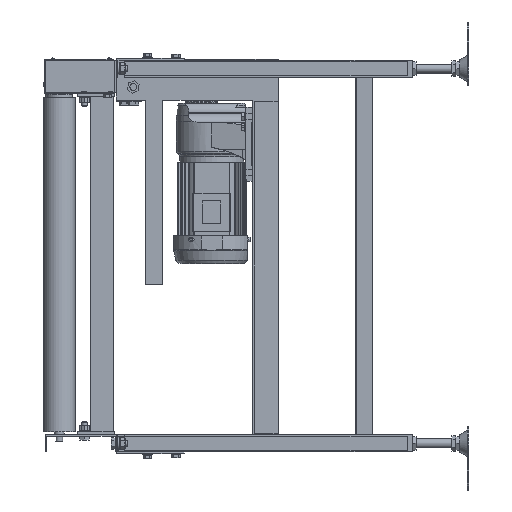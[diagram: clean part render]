
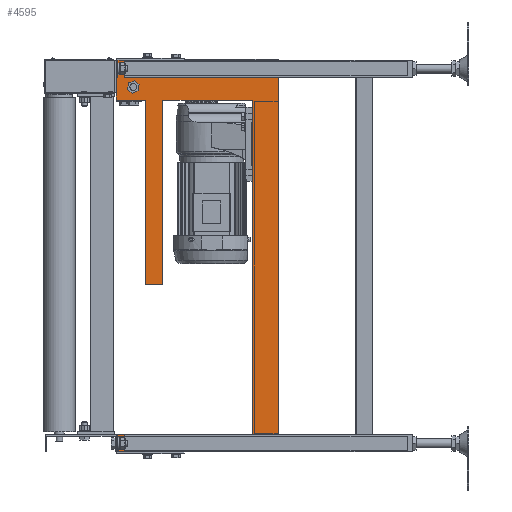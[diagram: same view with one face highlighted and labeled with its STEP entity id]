
A CAD part, left-side view. The second image highlights one B-rep face of the part: STEP entity #4595.
In plain terms, the highlighted planar face has unit normal (-1, 0, 0).
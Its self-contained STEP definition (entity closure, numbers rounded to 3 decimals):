
#4595=ADVANCED_FACE('',(#8654,#8655),#8653,.T.);
#8653=PLANE('',#45705);
#8654=FACE_OUTER_BOUND('',#45706,.T.);
#8655=FACE_BOUND('',#45707,.T.);
#45702=CARTESIAN_POINT('',(2400.,-424.,356.6));
#45703=DIRECTION('',(-1.,0.,0.));
#45704=DIRECTION('',(0.,1.,0.));
#45705=AXIS2_PLACEMENT_3D('',#45702,#45703,#45704);
#45706=EDGE_LOOP('',(#65526,#65527,#65528,#65529,#65530,#65531,#65532,#65533,#65534,#65535,#65536,#65537,#65538,#65539));
#45707=EDGE_LOOP('',(#65540,#65541,#65542,#65543,#65544,#65545));
#65526=ORIENTED_EDGE('',*,*,#83967,.T.);
#65527=ORIENTED_EDGE('',*,*,#83968,.T.);
#65528=ORIENTED_EDGE('',*,*,#83969,.F.);
#65529=ORIENTED_EDGE('',*,*,#83970,.T.);
#65530=ORIENTED_EDGE('',*,*,#83971,.F.);
#65531=ORIENTED_EDGE('',*,*,#83972,.F.);
#65532=ORIENTED_EDGE('',*,*,#83973,.T.);
#65533=ORIENTED_EDGE('',*,*,#83974,.T.);
#65534=ORIENTED_EDGE('',*,*,#83975,.T.);
#65535=ORIENTED_EDGE('',*,*,#83976,.F.);
#65536=ORIENTED_EDGE('',*,*,#83977,.T.);
#65537=ORIENTED_EDGE('',*,*,#83978,.T.);
#65538=ORIENTED_EDGE('',*,*,#83966,.T.);
#65539=ORIENTED_EDGE('',*,*,#83979,.F.);
#65540=ORIENTED_EDGE('',*,*,#83980,.F.);
#65541=ORIENTED_EDGE('',*,*,#83981,.F.);
#65542=ORIENTED_EDGE('',*,*,#83982,.F.);
#65543=ORIENTED_EDGE('',*,*,#83983,.F.);
#65544=ORIENTED_EDGE('',*,*,#83984,.F.);
#65545=ORIENTED_EDGE('',*,*,#83985,.F.);
#83966=EDGE_CURVE('',#93863,#93877,#93884,.T.);
#83967=EDGE_CURVE('',#93890,#93891,#93892,.T.);
#83968=EDGE_CURVE('',#93891,#93898,#93899,.T.);
#83969=EDGE_CURVE('',#93905,#93898,#93906,.T.);
#83970=EDGE_CURVE('',#93905,#93912,#93913,.T.);
#83971=EDGE_CURVE('',#93919,#93912,#93920,.T.);
#83972=EDGE_CURVE('',#93926,#93919,#93927,.T.);
#83973=EDGE_CURVE('',#93926,#93933,#93934,.T.);
#83974=EDGE_CURVE('',#93933,#93940,#93941,.T.);
#83975=EDGE_CURVE('',#93940,#93947,#93948,.T.);
#83976=EDGE_CURVE('',#93954,#93947,#93955,.T.);
#83977=EDGE_CURVE('',#93954,#93961,#93962,.T.);
#83978=EDGE_CURVE('',#93961,#93863,#93968,.T.);
#83979=EDGE_CURVE('',#93890,#93877,#93974,.T.);
#83980=EDGE_CURVE('',#93980,#93981,#93982,.T.);
#83981=EDGE_CURVE('',#93988,#93980,#93989,.T.);
#83982=EDGE_CURVE('',#93995,#93988,#93996,.T.);
#83983=EDGE_CURVE('',#94002,#93995,#94003,.T.);
#83984=EDGE_CURVE('',#94009,#94002,#94010,.T.);
#83985=EDGE_CURVE('',#93981,#94009,#94016,.T.);
#93863=VERTEX_POINT('',#155335);
#93877=VERTEX_POINT('',#155343);
#93884=LINE('',#155347,#155348);
#93890=VERTEX_POINT('',#155350);
#93891=VERTEX_POINT('',#155351);
#93892=LINE('',#155352,#155353);
#93898=VERTEX_POINT('',#155355);
#93899=LINE('',#155356,#155357);
#93905=VERTEX_POINT('',#155359);
#93906=LINE('',#155360,#155361);
#93912=VERTEX_POINT('',#155363);
#93913=LINE('',#155364,#155365);
#93919=VERTEX_POINT('',#155367);
#93920=LINE('',#155368,#155369);
#93926=VERTEX_POINT('',#155371);
#93927=LINE('',#155372,#155373);
#93933=VERTEX_POINT('',#155375);
#93934=LINE('',#155376,#155377);
#93940=VERTEX_POINT('',#155379);
#93941=LINE('',#155380,#155381);
#93947=VERTEX_POINT('',#155383);
#93948=LINE('',#155384,#155385);
#93954=VERTEX_POINT('',#155387);
#93955=LINE('',#155388,#155389);
#93961=VERTEX_POINT('',#155391);
#93962=LINE('',#155392,#155393);
#93968=LINE('',#155395,#155396);
#93974=LINE('',#155398,#155399);
#93980=VERTEX_POINT('',#155401);
#93981=VERTEX_POINT('',#155402);
#93982=LINE('',#155403,#155404);
#93988=VERTEX_POINT('',#155406);
#93989=LINE('',#155407,#155408);
#93995=VERTEX_POINT('',#155410);
#93996=LINE('',#155411,#155412);
#94002=VERTEX_POINT('',#155414);
#94003=LINE('',#155415,#155416);
#94009=VERTEX_POINT('',#155418);
#94010=LINE('',#155419,#155420);
#94016=LINE('',#155422,#155423);
#155335=CARTESIAN_POINT('',(2400.,-181.,274.5));
#155343=CARTESIAN_POINT('',(2400.,-181.,-50.5));
#155347=CARTESIAN_POINT('',(2400.,-181.,274.5));
#155348=VECTOR('',#155349,325.);
#155349=DIRECTION('',(0.,0.,-1.));
#155350=CARTESIAN_POINT('',(2400.,-211.,-50.5));
#155351=CARTESIAN_POINT('',(2400.,-211.,274.5));
#155352=CARTESIAN_POINT('',(2400.,-211.,-50.5));
#155353=VECTOR('',#155354,325.);
#155354=DIRECTION('',(0.,0.,1.));
#155355=CARTESIAN_POINT('',(2400.,-369.,274.5));
#155356=CARTESIAN_POINT('',(2400.,-211.,274.5));
#155357=VECTOR('',#155358,158.);
#155358=DIRECTION('',(0.,-1.,0.));
#155359=CARTESIAN_POINT('',(2400.,-369.,-315.));
#155360=CARTESIAN_POINT('',(2400.,-369.,-315.));
#155361=VECTOR('',#155362,589.5);
#155362=DIRECTION('',(0.,0.,1.));
#155363=CARTESIAN_POINT('',(2400.,-129.,-315.));
#155364=CARTESIAN_POINT('',(2400.,-369.,-315.));
#155365=VECTOR('',#155366,240.);
#155366=DIRECTION('',(0.,1.,0.));
#155367=CARTESIAN_POINT('',(2400.,-129.,-345.));
#155368=CARTESIAN_POINT('',(2400.,-129.,-345.));
#155369=VECTOR('',#155370,30.);
#155370=DIRECTION('',(0.,0.,1.));
#155371=CARTESIAN_POINT('',(2400.,-414.,-345.));
#155372=CARTESIAN_POINT('',(2400.,-414.,-345.));
#155373=VECTOR('',#155374,285.);
#155374=DIRECTION('',(0.,1.,0.));
#155375=CARTESIAN_POINT('',(2400.,-414.,331.6));
#155376=CARTESIAN_POINT('',(2400.,-414.,-345.));
#155377=VECTOR('',#155378,676.6);
#155378=DIRECTION('',(0.,0.,1.));
#155379=CARTESIAN_POINT('',(2400.,-180.,331.6));
#155380=CARTESIAN_POINT('',(2400.,-414.,331.6));
#155381=VECTOR('',#155382,234.);
#155382=DIRECTION('',(0.,1.,0.));
#155383=CARTESIAN_POINT('',(2400.,-180.,346.6));
#155384=CARTESIAN_POINT('',(2400.,-180.,331.6));
#155385=VECTOR('',#155386,15.);
#155386=DIRECTION('',(0.,0.,1.));
#155387=CARTESIAN_POINT('',(2400.,-129.,346.6));
#155388=CARTESIAN_POINT('',(2400.,-129.,346.6));
#155389=VECTOR('',#155390,51.);
#155390=DIRECTION('',(0.,-1.,0.));
#155391=CARTESIAN_POINT('',(2400.,-129.,274.5));
#155392=CARTESIAN_POINT('',(2400.,-129.,346.6));
#155393=VECTOR('',#155394,72.1);
#155394=DIRECTION('',(0.,0.,-1.));
#155395=CARTESIAN_POINT('',(2400.,-129.,274.5));
#155396=VECTOR('',#155397,52.);
#155397=DIRECTION('',(0.,-1.,0.));
#155398=CARTESIAN_POINT('',(2400.,-211.,-50.5));
#155399=VECTOR('',#155400,30.);
#155400=DIRECTION('',(0.,1.,0.));
#155401=CARTESIAN_POINT('',(2400.,-148.698,293.932));
#155402=CARTESIAN_POINT('',(2400.,-157.112,286.894));
#155403=CARTESIAN_POINT('',(2400.,-148.698,293.932));
#155404=VECTOR('',#155405,10.97);
#155405=DIRECTION('',(0.,-0.767,-0.642));
#155406=CARTESIAN_POINT('',(2400.,-150.585,304.738));
#155407=CARTESIAN_POINT('',(2400.,-150.585,304.738));
#155408=VECTOR('',#155409,10.97);
#155409=DIRECTION('',(0.,0.172,-0.985));
#155410=CARTESIAN_POINT('',(2400.,-160.888,308.506));
#155411=CARTESIAN_POINT('',(2400.,-160.888,308.506));
#155412=VECTOR('',#155413,10.97);
#155413=DIRECTION('',(0.,0.939,-0.344));
#155414=CARTESIAN_POINT('',(2400.,-169.302,301.468));
#155415=CARTESIAN_POINT('',(2400.,-169.302,301.468));
#155416=VECTOR('',#155417,10.97);
#155417=DIRECTION('',(0.,0.767,0.642));
#155418=CARTESIAN_POINT('',(2400.,-167.415,290.662));
#155419=CARTESIAN_POINT('',(2400.,-167.415,290.662));
#155420=VECTOR('',#155421,10.97);
#155421=DIRECTION('',(0.,-0.172,0.985));
#155422=CARTESIAN_POINT('',(2400.,-157.112,286.894));
#155423=VECTOR('',#155424,10.97);
#155424=DIRECTION('',(0.,-0.939,0.344));
